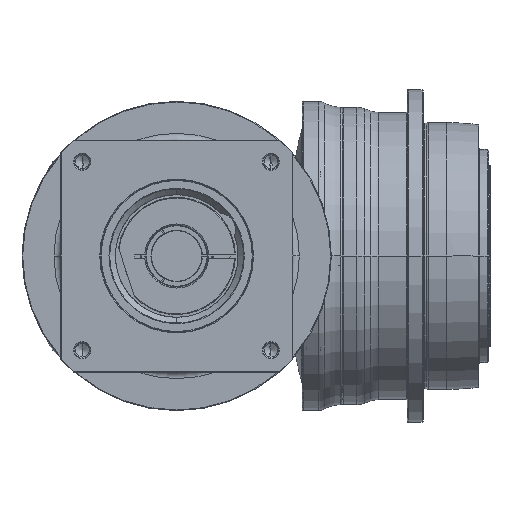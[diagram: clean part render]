
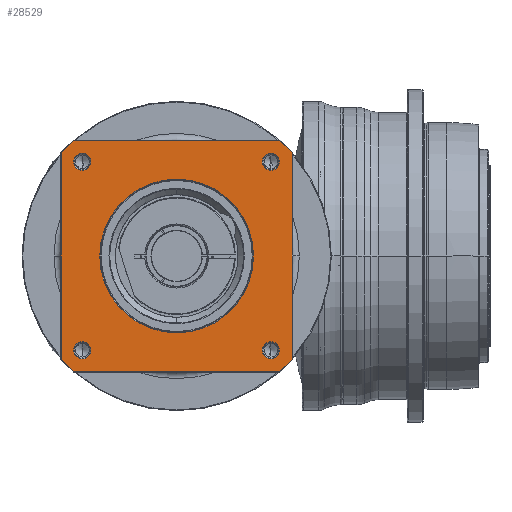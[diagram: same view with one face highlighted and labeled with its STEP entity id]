
A CAD part, front view. The second image highlights one B-rep face of the part: STEP entity #28529.
In plain terms, the highlighted planar face has unit normal (0, -1, 0) as drawn and (0, 0, 1) by its records, which use the part's own axes.
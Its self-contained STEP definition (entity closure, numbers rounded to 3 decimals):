
#27280=CARTESIAN_POINT('',(0.,0.,
76.));
#27281=DIRECTION('',(0.,0.,-1.));
#27282=DIRECTION('',(0.,-1.,0.));
#27283=AXIS2_PLACEMENT_3D('',#27280,#27281,#27282);
#27285=CARTESIAN_POINT('',(0.,0.,
76.));
#27286=DIRECTION('',(0.,0.,-1.));
#27287=DIRECTION('',(0.,1.,0.));
#27288=AXIS2_PLACEMENT_3D('',#27285,#27286,#27287);
#27290=CARTESIAN_POINT('',(0.,0.,76.));
#27291=DIRECTION('',(0.,0.,1.));
#27292=DIRECTION('',(-0.746,-0.666,0.));
#27293=AXIS2_PLACEMENT_3D('',#27290,#27291,#27292);
#27305=DIRECTION('',(1.,0.,0.));
#27306=VECTOR('',#27305,154.58);
#27307=CARTESIAN_POINT('',(-77.29,-86.5,76.));
#27308=LINE('',#27307,#27306);
#27318=CARTESIAN_POINT('',(0.,0.,76.));
#27319=DIRECTION('',(0.,0.,1.));
#27320=DIRECTION('',(0.666,-0.746,0.));
#27321=AXIS2_PLACEMENT_3D('',#27318,#27319,#27320);
#27333=DIRECTION('',(0.,1.,0.));
#27334=VECTOR('',#27333,154.58);
#27335=CARTESIAN_POINT('',(86.5,-77.29,76.));
#27336=LINE('',#27335,#27334);
#27346=CARTESIAN_POINT('',(0.,0.,76.));
#27347=DIRECTION('',(0.,0.,1.));
#27348=DIRECTION('',(0.746,0.666,0.));
#27349=AXIS2_PLACEMENT_3D('',#27346,#27347,#27348);
#27361=DIRECTION('',(-1.,0.,0.));
#27362=VECTOR('',#27361,154.58);
#27363=CARTESIAN_POINT('',(77.29,86.5,76.));
#27364=LINE('',#27363,#27362);
#27369=CARTESIAN_POINT('',(0.,0.,76.));
#27370=DIRECTION('',(0.,0.,1.));
#27371=DIRECTION('',(-0.666,0.746,0.));
#27372=AXIS2_PLACEMENT_3D('',#27369,#27370,#27371);
#27389=DIRECTION('',(0.,-1.,0.));
#27390=VECTOR('',#27389,154.58);
#27391=CARTESIAN_POINT('',(-86.5,77.29,76.));
#27392=LINE('',#27391,#27390);
#27475=CARTESIAN_POINT('',(-70.711,70.711,76.));
#27476=DIRECTION('',(0.,0.,1.));
#27477=DIRECTION('',(-1.,0.,0.));
#27478=AXIS2_PLACEMENT_3D('',#27475,#27476,#27477);
#27493=CARTESIAN_POINT('',(-70.711,70.711,76.));
#27494=DIRECTION('',(0.,0.,1.));
#27495=DIRECTION('',(1.,0.,0.));
#27496=AXIS2_PLACEMENT_3D('',#27493,#27494,#27495);
#27529=CARTESIAN_POINT('',(70.711,70.711,76.));
#27530=DIRECTION('',(0.,0.,1.));
#27531=DIRECTION('',(-1.,0.,0.));
#27532=AXIS2_PLACEMENT_3D('',#27529,#27530,#27531);
#27547=CARTESIAN_POINT('',(70.711,70.711,76.));
#27548=DIRECTION('',(0.,0.,1.));
#27549=DIRECTION('',(1.,0.,0.));
#27550=AXIS2_PLACEMENT_3D('',#27547,#27548,#27549);
#27583=CARTESIAN_POINT('',(70.711,-70.711,76.));
#27584=DIRECTION('',(0.,0.,1.));
#27585=DIRECTION('',(-1.,0.,0.));
#27586=AXIS2_PLACEMENT_3D('',#27583,#27584,#27585);
#27601=CARTESIAN_POINT('',(70.711,-70.711,76.));
#27602=DIRECTION('',(0.,0.,1.));
#27603=DIRECTION('',(1.,0.,0.));
#27604=AXIS2_PLACEMENT_3D('',#27601,#27602,#27603);
#27637=CARTESIAN_POINT('',(-70.711,-70.711,76.));
#27638=DIRECTION('',(0.,0.,1.));
#27639=DIRECTION('',(-1.,0.,0.));
#27640=AXIS2_PLACEMENT_3D('',#27637,#27638,#27639);
#27655=CARTESIAN_POINT('',(-70.711,-70.711,76.));
#27656=DIRECTION('',(0.,0.,1.));
#27657=DIRECTION('',(1.,0.,0.));
#27658=AXIS2_PLACEMENT_3D('',#27655,#27656,#27657);
#27787=CARTESIAN_POINT('',(86.5,-77.29,76.));
#27788=CARTESIAN_POINT('',(86.5,77.29,76.));
#27789=VERTEX_POINT('',#27787);
#27790=VERTEX_POINT('',#27788);
#27795=CARTESIAN_POINT('',(77.29,-86.5,76.));
#27796=VERTEX_POINT('',#27795);
#27799=CARTESIAN_POINT('',(-77.29,-86.5,76.));
#27800=VERTEX_POINT('',#27799);
#27803=CARTESIAN_POINT('',(-86.5,-77.29,76.));
#27804=VERTEX_POINT('',#27803);
#27807=CARTESIAN_POINT('',(-86.5,77.29,76.));
#27808=VERTEX_POINT('',#27807);
#27811=CARTESIAN_POINT('',(-77.29,86.5,76.));
#27812=VERTEX_POINT('',#27811);
#27815=CARTESIAN_POINT('',(77.29,86.5,76.));
#27816=VERTEX_POINT('',#27815);
#27825=CARTESIAN_POINT('',(-77.111,70.711,76.));
#27826=CARTESIAN_POINT('',(-64.311,70.711,76.));
#27827=VERTEX_POINT('',#27825);
#27828=VERTEX_POINT('',#27826);
#27851=CARTESIAN_POINT('',(77.111,70.711,76.));
#27852=CARTESIAN_POINT('',(64.311,70.711,76.));
#27853=VERTEX_POINT('',#27851);
#27854=VERTEX_POINT('',#27852);
#27859=CARTESIAN_POINT('',(77.111,-70.711,76.));
#27860=CARTESIAN_POINT('',(64.311,-70.711,76.));
#27861=VERTEX_POINT('',#27859);
#27862=VERTEX_POINT('',#27860);
#27867=CARTESIAN_POINT('',(-64.311,-70.711,76.));
#27868=CARTESIAN_POINT('',(-77.111,-70.711,76.));
#27869=VERTEX_POINT('',#27867);
#27870=VERTEX_POINT('',#27868);
#27875=CARTESIAN_POINT('',(0.,-57.65,76.));
#27876=CARTESIAN_POINT('',(0.,57.65,
76.));
#27877=VERTEX_POINT('',#27875);
#27878=VERTEX_POINT('',#27876);
#28477=CARTESIAN_POINT('',(0.,0.,76.));
#28478=DIRECTION('',(0.,0.,1.));
#28479=DIRECTION('',(1.,0.,0.));
#28480=AXIS2_PLACEMENT_3D('',#28477,#28478,#28479);
#28481=PLANE('',#28480);
#28483=ORIENTED_EDGE('',*,*,#28482,.F.);
#28485=ORIENTED_EDGE('',*,*,#28484,.F.);
#28487=ORIENTED_EDGE('',*,*,#28486,.F.);
#28489=ORIENTED_EDGE('',*,*,#28488,.F.);
#28491=ORIENTED_EDGE('',*,*,#28490,.F.);
#28493=ORIENTED_EDGE('',*,*,#28492,.F.);
#28495=ORIENTED_EDGE('',*,*,#28494,.F.);
#28497=ORIENTED_EDGE('',*,*,#28496,.F.);
#28498=EDGE_LOOP('',(#28483,#28485,#28487,#28489,#28491,#28493,#28495,#28497));
#28499=FACE_OUTER_BOUND('',#28498,.F.);
#28500=ORIENTED_EDGE('',*,*,#28467,.F.);
#28502=ORIENTED_EDGE('',*,*,#28501,.F.);
#28503=EDGE_LOOP('',(#28500,#28502));
#28504=FACE_BOUND('',#28503,.F.);
#28506=ORIENTED_EDGE('',*,*,#28505,.T.);
#28508=ORIENTED_EDGE('',*,*,#28507,.T.);
#28509=EDGE_LOOP('',(#28506,#28508));
#28510=FACE_BOUND('',#28509,.F.);
#28512=ORIENTED_EDGE('',*,*,#28511,.T.);
#28514=ORIENTED_EDGE('',*,*,#28513,.T.);
#28515=EDGE_LOOP('',(#28512,#28514));
#28516=FACE_BOUND('',#28515,.F.);
#28518=ORIENTED_EDGE('',*,*,#28517,.T.);
#28520=ORIENTED_EDGE('',*,*,#28519,.T.);
#28521=EDGE_LOOP('',(#28518,#28520));
#28522=FACE_BOUND('',#28521,.F.);
#28524=ORIENTED_EDGE('',*,*,#28523,.T.);
#28526=ORIENTED_EDGE('',*,*,#28525,.T.);
#28527=EDGE_LOOP('',(#28524,#28526));
#28528=FACE_BOUND('',#28527,.F.);
#28529=ADVANCED_FACE('',(#28499,#28504,#28510,#28516,#28522,#28528),#28481,.T.);
#27284=CIRCLE('',#27283,57.65);
#27289=CIRCLE('',#27288,57.65);
#27294=CIRCLE('',#27293,116.);
#27322=CIRCLE('',#27321,116.);
#27350=CIRCLE('',#27349,116.);
#27373=CIRCLE('',#27372,116.);
#27479=CIRCLE('',#27478,6.4);
#27497=CIRCLE('',#27496,6.4);
#27533=CIRCLE('',#27532,6.4);
#27551=CIRCLE('',#27550,6.4);
#27587=CIRCLE('',#27586,6.4);
#27605=CIRCLE('',#27604,6.4);
#27641=CIRCLE('',#27640,6.4);
#27659=CIRCLE('',#27658,6.4);
#28467=EDGE_CURVE('',#27877,#27878,#27284,.T.);
#28482=EDGE_CURVE('',#27804,#27800,#27294,.T.);
#28484=EDGE_CURVE('',#27808,#27804,#27392,.T.);
#28486=EDGE_CURVE('',#27812,#27808,#27373,.T.);
#28488=EDGE_CURVE('',#27816,#27812,#27364,.T.);
#28490=EDGE_CURVE('',#27790,#27816,#27350,.T.);
#28492=EDGE_CURVE('',#27789,#27790,#27336,.T.);
#28494=EDGE_CURVE('',#27796,#27789,#27322,.T.);
#28496=EDGE_CURVE('',#27800,#27796,#27308,.T.);
#28501=EDGE_CURVE('',#27878,#27877,#27289,.T.);
#28505=EDGE_CURVE('',#27827,#27828,#27479,.T.);
#28507=EDGE_CURVE('',#27828,#27827,#27497,.T.);
#28511=EDGE_CURVE('',#27854,#27853,#27533,.T.);
#28513=EDGE_CURVE('',#27853,#27854,#27551,.T.);
#28517=EDGE_CURVE('',#27862,#27861,#27587,.T.);
#28519=EDGE_CURVE('',#27861,#27862,#27605,.T.);
#28523=EDGE_CURVE('',#27870,#27869,#27641,.T.);
#28525=EDGE_CURVE('',#27869,#27870,#27659,.T.);
